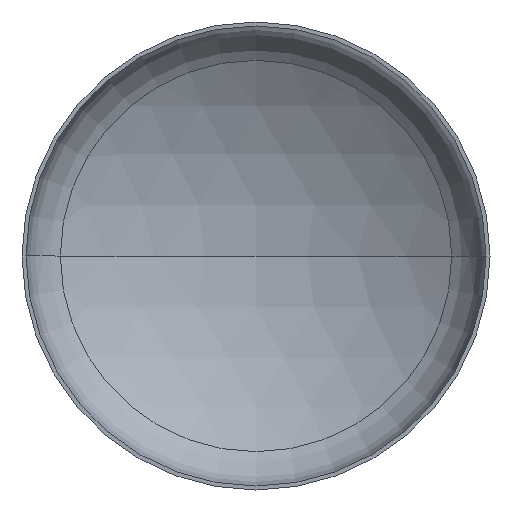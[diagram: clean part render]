
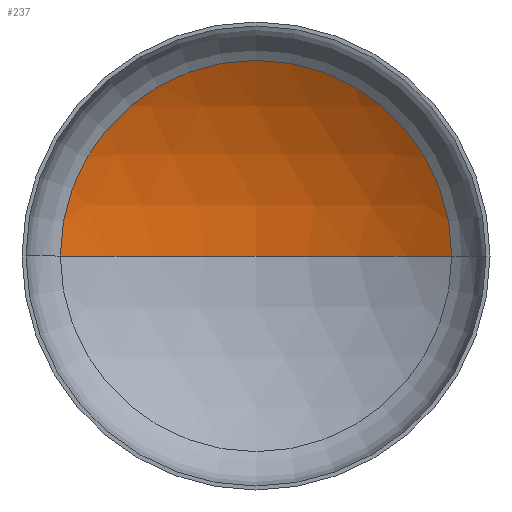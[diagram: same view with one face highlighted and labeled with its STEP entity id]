
A CAD part, front view. The second image highlights one B-rep face of the part: STEP entity #237.
In plain terms, the highlighted spherical face has radius 6400 mm.
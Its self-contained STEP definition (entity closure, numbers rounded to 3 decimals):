
#21 = AXIS2_PLACEMENT_3D ( 'NONE', #219, #161, #34 ) ;
#22 = FACE_OUTER_BOUND ( 'NONE', #124, .T. ) ;
#32 = VERTEX_POINT ( 'NONE', #337 ) ;
#34 = DIRECTION ( 'NONE',  ( -1., 0., 0. ) ) ;
#40 = ORIENTED_EDGE ( 'NONE', *, *, #101, .F. ) ;
#54 = AXIS2_PLACEMENT_3D ( 'NONE', #207, #200, #204 ) ;
#57 = AXIS2_PLACEMENT_3D ( 'NONE', #186, #187, #287 ) ;
#61 = AXIS2_PLACEMENT_3D ( 'NONE', #292, #283, #281 ) ;
#63 = VERTEX_POINT ( 'NONE', #279 ) ;
#93 = EDGE_CURVE ( 'NONE', #32, #63, #328, .T. ) ;
#97 = EDGE_CURVE ( 'NONE', #118, #32, #269, .T. ) ;
#101 = EDGE_CURVE ( 'NONE', #118, #63, #121, .T. ) ;
#118 = VERTEX_POINT ( 'NONE', #332 ) ;
#121 = CIRCLE ( 'NONE', #54, 6400. ) ;
#124 = EDGE_LOOP ( 'NONE', ( #40, #165, #139 ) ) ;
#139 = ORIENTED_EDGE ( 'NONE', *, *, #93, .T. ) ;
#161 = DIRECTION ( 'NONE',  ( 0., 0., -1. ) ) ;
#165 = ORIENTED_EDGE ( 'NONE', *, *, #97, .T. ) ;
#186 = CARTESIAN_POINT ( 'NONE',  ( 0., -4287.731, 0. ) ) ;
#187 = DIRECTION ( 'NONE',  ( 0., 0., -1. ) ) ;
#200 = DIRECTION ( 'NONE',  ( 0., 0., 1. ) ) ;
#204 = DIRECTION ( 'NONE',  ( 1., 0., 0. ) ) ;
#207 = CARTESIAN_POINT ( 'NONE',  ( 0., -4287.731, 0. ) ) ;
#219 = CARTESIAN_POINT ( 'NONE',  ( 0., -4287.731, 0. ) ) ;
#237 = ADVANCED_FACE ( 'NONE', ( #22 ), #308, .F. ) ;
#269 = CIRCLE ( 'NONE', #57, 6400. ) ;
#279 = CARTESIAN_POINT ( 'NONE',  ( -3344.836, 1168.648, 0. ) ) ;
#281 = DIRECTION ( 'NONE',  ( 1., 0., 0. ) ) ;
#283 = DIRECTION ( 'NONE',  ( 0., -1., 0. ) ) ;
#287 = DIRECTION ( 'NONE',  ( -1., 0., 0. ) ) ;
#292 = CARTESIAN_POINT ( 'NONE',  ( 0., 1168.648, 0. ) ) ;
#308 = SPHERICAL_SURFACE ( 'NONE', #21, 6400. ) ;
#328 = CIRCLE ( 'NONE', #61, 3344.836 ) ;
#332 = CARTESIAN_POINT ( 'NONE',  ( 0., 2112.269, 0. ) ) ;
#337 = CARTESIAN_POINT ( 'NONE',  ( 3344.836, 1168.648, 0. ) ) ;
